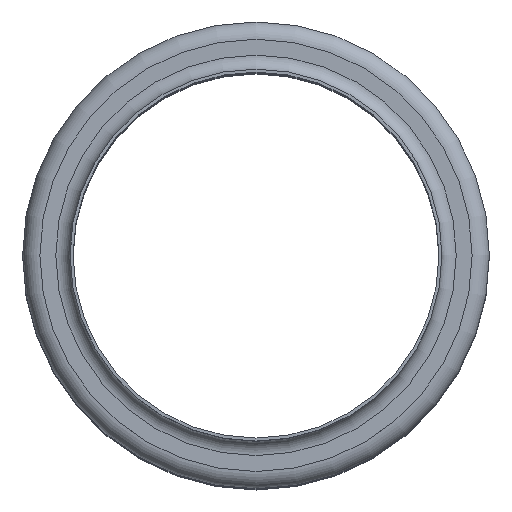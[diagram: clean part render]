
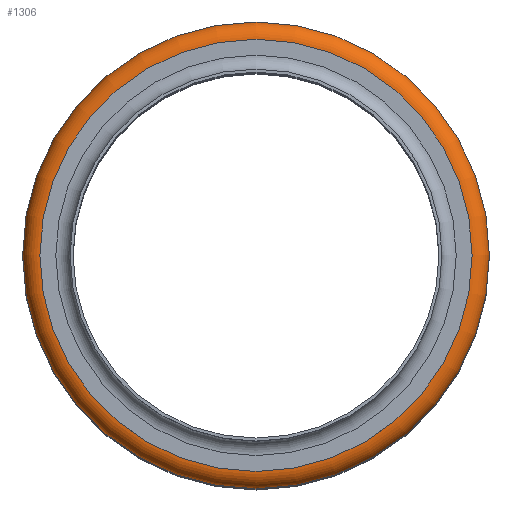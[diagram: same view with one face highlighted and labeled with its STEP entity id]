
A CAD part, top view. The second image highlights one B-rep face of the part: STEP entity #1306.
In plain terms, the highlighted toroidal (fillet/blend) face has major radius 43.51 mm and minor radius 3.48 mm.
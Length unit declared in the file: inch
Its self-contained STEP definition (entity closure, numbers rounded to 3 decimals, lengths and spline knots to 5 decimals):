
#79=TOROIDAL_SURFACE('',#1577,1.713,0.137);
#230=FACE_OUTER_BOUND('',#385,.T.);
#385=EDGE_LOOP('',(#1110,#1111,#1112,#1113));
#546=CIRCLE('',#1576,1.713);
#547=CIRCLE('',#1578,1.713);
#548=CIRCLE('',#1579,0.137);
#659=VERTEX_POINT('',#2474);
#660=VERTEX_POINT('',#2477);
#812=EDGE_CURVE('',#659,#659,#546,.T.);
#813=EDGE_CURVE('',#660,#660,#547,.T.);
#814=EDGE_CURVE('',#660,#659,#548,.T.);
#1110=ORIENTED_EDGE('',*,*,#813,.F.);
#1111=ORIENTED_EDGE('',*,*,#814,.T.);
#1112=ORIENTED_EDGE('',*,*,#812,.T.);
#1113=ORIENTED_EDGE('',*,*,#814,.F.);
#1306=ADVANCED_FACE('',(#230),#79,.T.);
#1576=AXIS2_PLACEMENT_3D('',#2475,#2074,#2075);
#1577=AXIS2_PLACEMENT_3D('',#2476,#2076,#2077);
#1578=AXIS2_PLACEMENT_3D('',#2478,#2078,#2079);
#1579=AXIS2_PLACEMENT_3D('',#2479,#2080,#2081);
#2074=DIRECTION('center_axis',(0.,0.,-1.));
#2075=DIRECTION('ref_axis',(1.,0.,0.));
#2076=DIRECTION('center_axis',(0.,0.,-1.));
#2077=DIRECTION('ref_axis',(-1.,0.,0.));
#2078=DIRECTION('center_axis',(0.,0.,-1.));
#2079=DIRECTION('ref_axis',(1.,0.,0.));
#2080=DIRECTION('center_axis',(0.,-1.,0.));
#2081=DIRECTION('ref_axis',(1.,0.,0.));
#2474=CARTESIAN_POINT('',(1.713,0.,-0.113));
#2475=CARTESIAN_POINT('Origin',(0.,0.,-0.113));
#2476=CARTESIAN_POINT('Origin',(0.,0.,-0.25));
#2477=CARTESIAN_POINT('',(1.713,0.,-0.387));
#2478=CARTESIAN_POINT('Origin',(0.,0.,-0.387));
#2479=CARTESIAN_POINT('Origin',(1.713,0.,-0.25));
